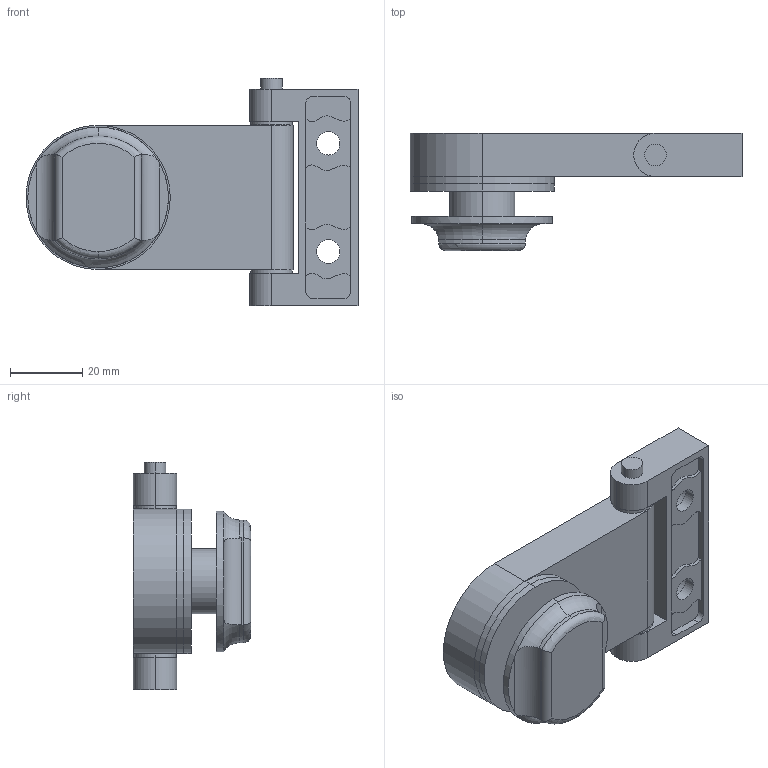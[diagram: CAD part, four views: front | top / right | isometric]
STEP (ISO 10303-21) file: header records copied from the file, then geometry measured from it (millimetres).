
FILE_DESCRIPTION (( 'STEP AP203' ), '1' );
FILE_NAME ('XG02-123-1.STEP', '2025-05-29T06:55:53', ( '微软用户' ), ( '微软中国' ), 'SwSTEP 2.0', 'SolidWorks 2024', '' );
FILE_SCHEMA (( 'CONFIG_CONTROL_DESIGN' ));
Length unit declared in the file: millimetre
Products named in the file (3): XG02-123-1; XG02-123-1PART1; XG02-123-1PART2
Assembly tree (2 placements, depth 2):
  XG02-123-1
    XG02-123-1PART1
    XG02-123-1PART2
Bounding box: 92 x 32.5 x 63 mm (x, y, z)
Volume: 59962.2 mm3; surface area: 22143.9 mm2
Topology: 4 solids, 4 shells, 86 faces, 200 edges, 130 vertices
Faces by surface type: cylinder 40, plane 36, torus 6, bspline 4
Entity records: 2951 total; most frequent: CARTESIAN_POINT 649, DIRECTION 436, ORIENTED_EDGE 400, EDGE_CURVE 200, AXIS2_PLACEMENT_3D 169, VERTEX_POINT 130, VECTOR 98, LINE 98
